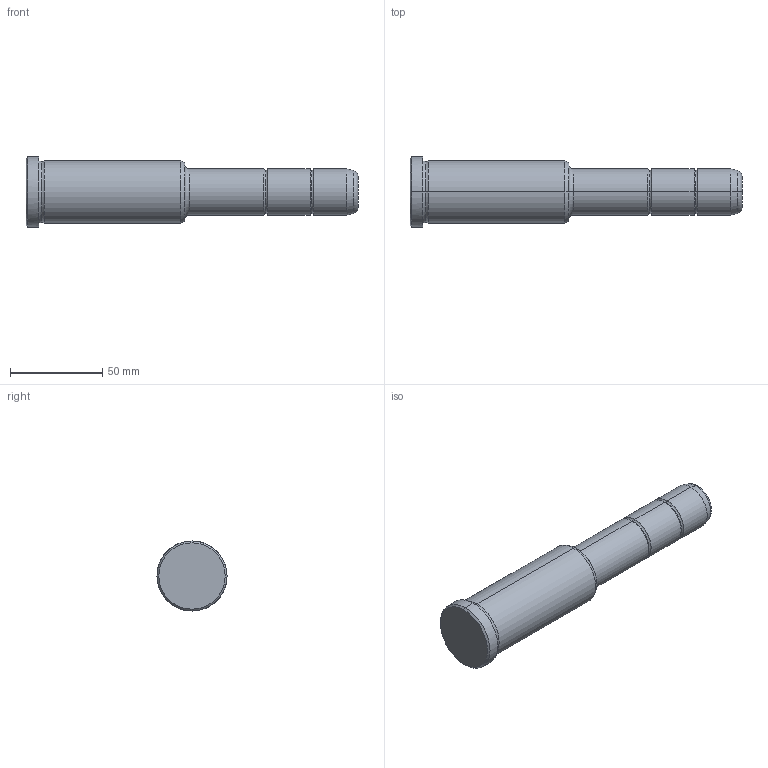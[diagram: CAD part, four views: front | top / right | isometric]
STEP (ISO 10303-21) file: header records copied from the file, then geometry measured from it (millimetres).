
FILE_DESCRIPTION(('CATIA V5 STEP Exchange'),'2;1');
FILE_NAME('C:\Users\Utente\Desktop\IO LAVORO\3D X SITO CF\X SITO\PLASTICA\351\351-25X86X180.stp','2021-09-07T11:25:46+00:00',('none'),('none'),'CATIA Version 5 Release 20 GA (IN-10)','CATIA V5 STEP AP203','none');
FILE_SCHEMA(('CONFIG_CONTROL_DESIGN'));
Length unit declared in the file: millimetre
Products named in the file (1): 351-25X86X180
Bounding box: 180 x 38 x 38 mm (x, y, z)
Volume: 125017.6 mm3; surface area: 18615 mm2
Topology: 1 solids, 1 shells, 36 faces, 102 edges, 70 vertices
Faces by surface type: torus 16, cylinder 10, cone 6, plane 4
Entity records: 1292 total; most frequent: CARTESIAN_POINT 321, ORIENTED_EDGE 204, DIRECTION 166, AXIS2_PLACEMENT_3D 115, EDGE_CURVE 102, CIRCLE 78, VERTEX_POINT 70, EDGE_LOOP 38
